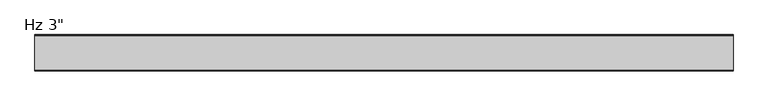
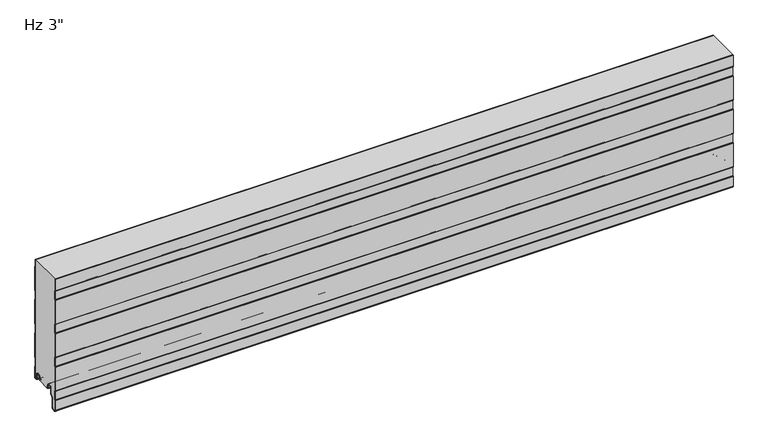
"""IFC4 building model written with IfcOpenShell, lengths in millimetres: plate geometry."""

from ifc_helpers import new_model, si_unit, point, frame, frame_2d, origin, place, context, project, spatial, polyline, circle_curve, trimmed, segment, composite_curve, outline, extrude, source, transform, mapped, element, save
from ifc_brep_helpers import plane_surface, cylinder_surface, revolved_surface, advanced_brep


def plate_0df7702d(model_context):
    return source(origin(), model_context, "Body", "SolidModel", [
        advanced_brep(
        [(-730.0, -17.0015159, 2.0313088), (-730.0, -18.0015191, 1.0313116), (-730.0, -19.0015105, 2.0313088), (-730.0, -19.0015105, 6.0315125), (-730.0, -18.0015159, 6.0315125), (-730.0, -18.0015159, 8.7237223), (-730.0, -14.7015202, 12.023718), (-730.0, -10.301529, 12.023718), (-730.0, -7.0015335, 8.7237225), (-730.0, -7.0015335, -1.6962564), (-730.0, -5.2315393, -3.4662506), (-730.0, -0.9999916, -3.4662506), (-730.0, -0.9999916, 21.034026), (-730.0, -2.2002307, 22.4196686), (-730.0, -2.2002307, 41.7948349), (-730.0, -1.0, 43.1804679), (-730.0, -1.0, 97.2338833), (-730.0, -2.2002307, 98.6195162), (-730.0, -2.2002307, 117.9946825), (-730.0, -1.0, 119.3803155), (-730.0, -1.0, 173.4337309), (-730.0, -2.2002307, 174.8193638), (-730.0, -2.2002307, 194.1945301), (-730.0, -1.0, 195.5801631), (-730.0, -1.0, 249.6335785), (-730.0, -2.2002307, 251.0192114), (-730.0, -2.2002307, 266.4), (-730.0, -1.2002307, 266.4), (-730.0, -1.2002307, 251.3920919), (-730.0, -0.3417885, 250.4010442), (-730.0, 0.0, 249.4844273), (-730.0, 0.0, 195.7293142), (-730.0, -0.3417885, 194.8126973), (-730.0, -1.2002307, 193.8216497), (-730.0, -1.2002307, 175.1922443), (-730.0, -0.3417885, 174.2011966), (-730.0, 0.0, 173.2845797), (-730.0, 0.0, 119.5294666), (-730.0, -0.3417885, 118.6128497), (-730.0, -1.2002307, 117.6218021), (-730.0, -1.2002307, 98.9923967), (-730.0, -0.3417885, 98.001349), (-730.0, 0.0, 97.0847321), (-730.0, 0.0, 43.329619), (-730.0, -0.3417885, 42.4130021), (-730.0, -1.2002307, 41.4219545), (-730.0, -1.2002307, 22.7925491), (-730.0, -0.3417885, 21.8015014), (-730.0, 0.0, 20.8847931), (-730.0, 8.4e-06, -3.0662545), (-730.0, -1.3999878, -4.4662506), (-730.0, -5.2315393, -4.4662506), (-730.0, -8.0015335, -1.6962564), (-730.0, -8.0015335, 8.7237225), (-730.0, -10.301529, 11.023718), (-730.0, -14.7015202, 11.023718), (-730.0, -17.0015159, 8.7237223), (730.0, -17.0015159, 2.0313088), (730.0, -17.0015159, 8.7237223), (730.0, -14.7015202, 11.023718), (730.0, -10.301529, 11.023718), (730.0, -8.0015335, 8.7237225), (730.0, -8.0015335, -1.6962564), (730.0, -5.2315393, -4.4662506), (730.0, -1.3999878, -4.4662506), (730.0, 8.4e-06, -3.0662545), (730.0, 8.4e-06, 20.8848845), (730.0, -0.3417885, 21.8015014), (730.0, -1.2002307, 22.7925491), (730.0, -1.2002307, 41.4219545), (730.0, -0.3417885, 42.4130021), (730.0, 0.0, 43.329619), (730.0, 0.0, 97.0847321), (730.0, -0.3417885, 98.001349), (730.0, -1.2002307, 98.9923967), (730.0, -1.2002307, 117.6218021), (730.0, -0.3417885, 118.6128497), (730.0, 0.0, 119.5294666), (730.0, 0.0, 173.2845797), (730.0, -0.3417885, 174.2011966), (730.0, -1.2002307, 175.1922443), (730.0, -1.2002307, 193.8216497), (730.0, -0.3417885, 194.8126973), (730.0, 0.0, 195.7293142), (730.0, 0.0, 249.4844273), (730.0, -0.3417885, 250.4010442), (730.0, -1.2002307, 251.3920919), (730.0, -1.2002307, 266.4), (730.0, -2.2002307, 266.4), (730.0, -2.2002307, 251.0192114), (730.0, -1.0, 249.6335785), (730.0, -1.0, 195.5801631), (730.0, -2.2002307, 194.1945301), (730.0, -2.2002307, 174.8193638), (730.0, -1.0, 173.4337309), (730.0, -1.0, 119.3803155), (730.0, -2.2002307, 117.9946825), (730.0, -2.2002307, 98.6195162), (730.0, -1.0, 97.2338833), (730.0, -1.0, 43.1804679), (730.0, -2.2002307, 41.7948349), (730.0, -2.2002307, 22.4196686), (730.0, -0.9999916, 21.034026), (730.0, -0.9999916, -3.4662506), (730.0, -5.2315393, -3.4662506), (730.0, -7.0015335, -1.6962564), (730.0, -7.0015335, 8.7237225), (730.0, -10.301529, 12.023718), (730.0, -14.7015202, 12.023718), (730.0, -18.0015159, 8.7237223), (730.0, -18.0015159, 6.0315125), (730.0, -19.0015105, 6.0315125), (730.0, -19.0015105, 2.0313088), (730.0, -18.0015192, 1.0313116)],
        [
            (0, 1, circle_curve(frame((-730.0, -18.0015132, 2.0313088), z_axis=(-1.0, 0.0, 0.0), x_axis=(0.0, 0.0, 1.0)), 0.9999973)),
            (1, 2, circle_curve(frame((-730.0, -18.0015133, 2.0313088), z_axis=(-1.0, 0.0, 0.0), x_axis=(0.0, 0.0, 1.0)), 0.9999972)),
            (2, 3),
            (3, 4),
            (4, 5),
            (5, 6, circle_curve(frame((-730.0, -14.7015202, 8.7237223), z_axis=(-1.0, 0.0, 0.0), x_axis=(0.0, 0.0, 1.0)), 3.2999957)),
            (6, 7),
            (7, 8, circle_curve(frame((-730.0, -10.301529, 8.7237225), z_axis=(-1.0, 0.0, 0.0), x_axis=(0.0, 0.0, 1.0)), 3.2999955)),
            (8, 9),
            (9, 10, circle_curve(frame((-730.0, -5.2315393, -1.6962564), z_axis=(1.0, 0.0, 0.0), x_axis=(0.0, 0.0, 1.0)), 1.7699942)),
            (10, 11),
            (11, 12),
            (12, 13),
            (13, 14),
            (14, 15),
            (15, 16),
            (16, 17),
            (17, 18),
            (18, 19),
            (19, 20),
            (20, 21),
            (21, 22),
            (22, 23),
            (23, 24),
            (24, 25),
            (25, 26),
            (26, 27),
            (27, 28),
            (28, 29),
            (29, 30, circle_curve(frame((-730.0, -1.3999972, 249.4844273), z_axis=(-1.0, 0.0, 0.0), x_axis=(0.0, 0.0, 1.0)), 1.3999972)),
            (30, 31),
            (31, 32, circle_curve(frame((-730.0, -1.3999972, 195.7293142), z_axis=(-1.0, 0.0, 0.0), x_axis=(0.0, 0.0, 1.0)), 1.3999972)),
            (32, 33),
            (33, 34),
            (34, 35),
            (35, 36, circle_curve(frame((-730.0, -1.3999972, 173.2845797), z_axis=(-1.0, 0.0, 0.0), x_axis=(0.0, 0.0, 1.0)), 1.3999972)),
            (36, 37),
            (37, 38, circle_curve(frame((-730.0, -1.3999972, 119.5294666), z_axis=(-1.0, 0.0, 0.0), x_axis=(0.0, 0.0, 1.0)), 1.3999972)),
            (38, 39),
            (39, 40),
            (40, 41),
            (41, 42, circle_curve(frame((-730.0, -1.3999972, 97.0847321), z_axis=(-1.0, 0.0, 0.0), x_axis=(0.0, 0.0, 1.0)), 1.3999972)),
            (42, 43),
            (43, 44, circle_curve(frame((-730.0, -1.3999972, 43.329619), z_axis=(-1.0, 0.0, 0.0), x_axis=(0.0, 0.0, 1.0)), 1.3999972)),
            (44, 45),
            (45, 46),
            (46, 47),
            (47, 48, circle_curve(frame((-730.0, -1.3999972, 20.8848845), z_axis=(-1.0, 0.0, 0.0), x_axis=(0.0, 0.0, 1.0)), 1.3999972)),
            (48, 49),
            (49, 50, circle_curve(frame((-730.0, -1.3999878, -3.0662545), z_axis=(-1.0, 0.0, 0.0), x_axis=(0.0, 0.0, 1.0)), 1.3999962)),
            (50, 51),
            (51, 52, circle_curve(frame((-730.0, -5.2315393, -1.6962564), z_axis=(-1.0, 0.0, 0.0), x_axis=(0.0, 0.0, 1.0)), 2.7699942)),
            (52, 53),
            (53, 54, circle_curve(frame((-730.0, -10.301529, 8.7237225), z_axis=(1.0, 0.0, 0.0), x_axis=(0.0, 0.0, 1.0)), 2.2999955)),
            (54, 55),
            (55, 56, circle_curve(frame((-730.0, -14.7015202, 8.7237223), z_axis=(1.0, 0.0, 0.0), x_axis=(0.0, 0.0, 1.0)), 2.2999957)),
            (56, 0),
            (57, 58),
            (58, 59, circle_curve(frame((730.0, -14.7015202, 8.7237223), z_axis=(-1.0, 0.0, 0.0), x_axis=(0.0, 0.0, 1.0)), 2.2999957)),
            (59, 60),
            (60, 61, circle_curve(frame((730.0, -10.301529, 8.7237225), z_axis=(-1.0, 0.0, 0.0), x_axis=(0.0, 0.0, 1.0)), 2.2999955)),
            (61, 62),
            (62, 63, circle_curve(frame((730.0, -5.2315393, -1.6962564), z_axis=(1.0, 0.0, 0.0), x_axis=(0.0, 0.0, 1.0)), 2.7699942)),
            (63, 64),
            (64, 65, circle_curve(frame((730.0, -1.3999878, -3.0662545), z_axis=(1.0, 0.0, 0.0), x_axis=(0.0, 0.0, 1.0)), 1.3999962)),
            (65, 66),
            (66, 67, circle_curve(frame((730.0, -1.3999972, 20.8848845), z_axis=(1.0, 0.0, 0.0), x_axis=(0.0, 0.0, 1.0)), 1.3999972)),
            (67, 68),
            (68, 69),
            (69, 70),
            (70, 71, circle_curve(frame((730.0, -1.3999972, 43.329619), z_axis=(1.0, 0.0, 0.0), x_axis=(0.0, 0.0, 1.0)), 1.3999972)),
            (71, 72),
            (72, 73, circle_curve(frame((730.0, -1.3999972, 97.0847321), z_axis=(1.0, 0.0, 0.0), x_axis=(0.0, 0.0, 1.0)), 1.3999972)),
            (73, 74),
            (74, 75),
            (75, 76),
            (76, 77, circle_curve(frame((730.0, -1.3999972, 119.5294666), z_axis=(1.0, 0.0, 0.0), x_axis=(0.0, 0.0, 1.0)), 1.3999972)),
            (77, 78),
            (78, 79, circle_curve(frame((730.0, -1.3999972, 173.2845797), z_axis=(1.0, 0.0, 0.0), x_axis=(0.0, 0.0, 1.0)), 1.3999972)),
            (79, 80),
            (80, 81),
            (81, 82),
            (82, 83, circle_curve(frame((730.0, -1.3999972, 195.7293142), z_axis=(1.0, 0.0, 0.0), x_axis=(0.0, 0.0, 1.0)), 1.3999972)),
            (83, 84),
            (84, 85, circle_curve(frame((730.0, -1.3999972, 249.4844273), z_axis=(1.0, 0.0, 0.0), x_axis=(0.0, 0.0, 1.0)), 1.3999972)),
            (85, 86),
            (86, 87),
            (87, 88),
            (88, 89),
            (89, 90),
            (90, 91),
            (91, 92),
            (92, 93),
            (93, 94),
            (94, 95),
            (95, 96),
            (96, 97),
            (97, 98),
            (98, 99),
            (99, 100),
            (100, 101),
            (101, 102),
            (102, 103),
            (103, 104),
            (104, 105, circle_curve(frame((730.0, -5.2315393, -1.6962564), z_axis=(-1.0, 0.0, 0.0), x_axis=(0.0, 0.0, 1.0)), 1.7699942)),
            (105, 106),
            (106, 107, circle_curve(frame((730.0, -10.301529, 8.7237225), z_axis=(1.0, 0.0, 0.0), x_axis=(0.0, 0.0, 1.0)), 3.2999955)),
            (107, 108),
            (108, 109, circle_curve(frame((730.0, -14.7015202, 8.7237223), z_axis=(1.0, 0.0, 0.0), x_axis=(0.0, 0.0, 1.0)), 3.2999957)),
            (109, 110),
            (110, 111),
            (111, 112),
            (112, 113, circle_curve(frame((730.0, -18.0015133, 2.0313088), z_axis=(1.0, 0.0, 0.0), x_axis=(0.0, 0.0, 1.0)), 0.9999972)),
            (113, 57, circle_curve(frame((730.0, -18.0015132, 2.0313088), z_axis=(1.0, 0.0, 0.0), x_axis=(0.0, 0.0, 1.0)), 0.9999973)),
            (26, 88),
            (87, 27),
            (56, 58),
            (57, 0),
            (55, 59),
            (54, 60),
            (53, 61),
            (52, 62),
            (51, 63),
            (50, 64),
            (49, 65),
            (48, 66),
            (47, 67),
            (46, 68),
            (45, 69),
            (44, 70),
            (43, 71),
            (42, 72),
            (41, 73),
            (40, 74),
            (39, 75),
            (38, 76),
            (37, 77),
            (36, 78),
            (19, 95),
            (94, 20),
            (18, 96),
            (17, 97),
            (16, 98),
            (15, 99),
            (14, 100),
            (13, 101),
            (12, 102),
            (11, 103),
            (10, 104),
            (9, 105),
            (8, 106),
            (7, 107),
            (6, 108),
            (5, 109),
            (4, 110),
            (3, 111),
            (2, 112),
            (1, 113),
            (35, 79),
            (34, 80),
            (33, 81),
            (32, 82),
            (31, 83),
            (30, 84),
            (29, 85),
            (28, 86),
            (25, 89),
            (24, 90),
            (23, 91),
            (22, 92),
            (21, 93),
        ],
        [
            plane_surface(frame((-730.0, 0.0, 533.4), z_axis=(-1.0, 0.0, 0.0), x_axis=(0.0, 1.0, 0.0))),
            plane_surface(frame((730.0, 0.0, 533.4), z_axis=(1.0, 0.0, 0.0), x_axis=(0.0, 1.0, 0.0))),
            plane_surface(frame((730.0, 10.0, 266.4), z_axis=(0.0, 0.0, 1.0), x_axis=(-1.0, 0.0, 0.0))),
            plane_surface(frame((-730.0, -17.0015159, 2.0313088), z_axis=(0.0, 1.0, 0.0), x_axis=(1.0, 0.0, 0.0))),
            revolved_surface(polyline([(730.0, -14.7015202, 11.023718), (-730.0, -14.7015202, 11.023718)]), (-730.0, -14.7015202, 8.7237223), (1.0, 0.0, 0.0)),
            plane_surface(frame((-730.0, -14.7015202, 11.023718), z_axis=(0.0, 0.0, -1.0), x_axis=(1.0, 0.0, 0.0))),
            revolved_surface(polyline([(730.0, -10.301529, 11.023717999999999), (-730.0, -10.301529, 11.023717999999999)]), (-730.0, -10.301529, 8.7237225), (1.0, 0.0, 0.0)),
            plane_surface(frame((-730.0, -8.0015335, 8.7237225), z_axis=(0.0, -1.0, 0.0), x_axis=(1.0, 0.0, 0.0))),
            cylinder_surface(frame((-730.0, -5.2315393, -1.6962564), z_axis=(-1.0, 0.0, 0.0), x_axis=(0.0, 0.0, 1.0)), 2.7699942),
            plane_surface(frame((-730.0, -5.2315393, -4.4662506), z_axis=(0.0, 0.0, -1.0), x_axis=(1.0, 0.0, 0.0))),
            cylinder_surface(frame((-730.0, -1.3999878, -3.0662545), z_axis=(-1.0, 0.0, 0.0), x_axis=(0.0, 0.0, 1.0)), 1.3999962),
            plane_surface(frame((-730.0, 8.4e-06, -3.0662545), z_axis=(0.0, 1.0, 0.0), x_axis=(1.0, 0.0, 0.0))),
            cylinder_surface(frame((-730.0, -1.3999972, 20.8848845), z_axis=(-1.0, 0.0, 0.0), x_axis=(0.0, 0.0, 1.0)), 1.3999972),
            plane_surface(frame((-730.0, -0.3417885, 21.8015014), z_axis=(0.0, 0.755864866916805, 0.6547276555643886), x_axis=(1.0, 0.0, 0.0))),
            plane_surface(frame((-730.0, -1.2002307, 32.1072518), z_axis=(0.0, 1.0, 0.0), x_axis=(1.0, 0.0, 0.0))),
            plane_surface(frame((-730.0, -1.2002307, 41.4219545), z_axis=(0.0, 0.755864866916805, -0.6547276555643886), x_axis=(1.0, 0.0, 0.0))),
            cylinder_surface(frame((-730.0, -1.3999972, 43.329619), z_axis=(-1.0, 0.0, 0.0), x_axis=(0.0, 0.0, 1.0)), 1.3999972),
            plane_surface(frame((-730.0, 0.0, 43.329619), z_axis=(0.0, 1.0, 0.0), x_axis=(1.0, 0.0, 0.0))),
            cylinder_surface(frame((-730.0, -1.3999972, 97.0847321), z_axis=(-1.0, 0.0, 0.0), x_axis=(0.0, 0.0, 1.0)), 1.3999972),
            plane_surface(frame((-730.0, -0.3417885, 98.001349), z_axis=(0.0, 0.755864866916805, 0.6547276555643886), x_axis=(1.0, 0.0, 0.0))),
            plane_surface(frame((-730.0, -1.2002307, 108.3070994), z_axis=(0.0, 1.0, 0.0), x_axis=(1.0, 0.0, 0.0))),
            plane_surface(frame((-730.0, -1.2002307, 117.6218021), z_axis=(0.0, 0.755864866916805, -0.6547276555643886), x_axis=(1.0, 0.0, 0.0))),
            cylinder_surface(frame((-730.0, -1.3999972, 119.5294666), z_axis=(-1.0, 0.0, 0.0), x_axis=(0.0, 0.0, 1.0)), 1.3999972),
            plane_surface(frame((-730.0, 0.0, 119.5294666), z_axis=(0.0, 1.0, 0.0), x_axis=(1.0, 0.0, 0.0))),
            plane_surface(frame((-730.0, -1.0, 173.4337309), z_axis=(0.0, -1.0, 0.0), x_axis=(1.0, 0.0, 0.0))),
            plane_surface(frame((-730.0, -1.0, 119.3803155), z_axis=(0.0, -0.755864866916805, 0.6547276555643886), x_axis=(1.0, 0.0, 0.0))),
            plane_surface(frame((-730.0, -2.2002307, 117.9946825), z_axis=(0.0, -1.0, 0.0), x_axis=(1.0, 0.0, 0.0))),
            plane_surface(frame((-730.0, -2.2002307, 98.6195162), z_axis=(0.0, -0.755864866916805, -0.6547276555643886), x_axis=(1.0, 0.0, 0.0))),
            plane_surface(frame((-730.0, -1.0, 97.2338833), z_axis=(0.0, -1.0, 0.0), x_axis=(1.0, 0.0, 0.0))),
            plane_surface(frame((-730.0, -1.0, 43.1804679), z_axis=(0.0, -0.755864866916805, 0.6547276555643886), x_axis=(1.0, 0.0, 0.0))),
            plane_surface(frame((-730.0, -2.2002307, 41.7948349), z_axis=(0.0, -1.0, 0.0), x_axis=(1.0, 0.0, 0.0))),
            plane_surface(frame((-730.0, -2.2002307, 22.4196686), z_axis=(0.0, -0.755864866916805, -0.6547276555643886), x_axis=(1.0, 0.0, 0.0))),
            plane_surface(frame((-730.0, -0.9999916, 21.034026), z_axis=(0.0, -1.0, 0.0), x_axis=(1.0, 0.0, 0.0))),
            plane_surface(frame((-730.0, -0.9999916, -3.4662506), z_axis=(0.0, 0.0, 1.0), x_axis=(1.0, 0.0, 0.0))),
            revolved_surface(polyline([(730.0, -5.2315393, 0.07373779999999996), (-730.0, -5.2315393, 0.07373779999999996)]), (-730.0, -5.2315393, -1.6962564), (1.0, 0.0, 0.0)),
            plane_surface(frame((-730.0, -7.0015335, -1.6962564), z_axis=(0.0, 1.0, 0.0), x_axis=(1.0, 0.0, 0.0))),
            cylinder_surface(frame((-730.0, -10.301529, 8.7237225), z_axis=(-1.0, 0.0, 0.0), x_axis=(0.0, 0.0, 1.0)), 3.2999955),
            plane_surface(frame((-730.0, -10.301529, 12.023718), z_axis=(0.0, 0.0, 1.0), x_axis=(1.0, 0.0, 0.0))),
            cylinder_surface(frame((-730.0, -14.7015202, 8.7237223), z_axis=(-1.0, 0.0, 0.0), x_axis=(0.0, 0.0, 1.0)), 3.2999957),
            plane_surface(frame((-730.0, -18.0015159, 8.7237223), z_axis=(0.0, -1.0, 0.0), x_axis=(1.0, 0.0, 0.0))),
            plane_surface(frame((-730.0, -18.0015159, 6.0315125), z_axis=(0.0, 0.0, 1.0), x_axis=(1.0, 0.0, 0.0))),
            plane_surface(frame((-730.0, -19.0015105, 6.0315125), z_axis=(0.0, -1.0, 0.0), x_axis=(1.0, 0.0, 0.0))),
            cylinder_surface(frame((-730.0, -18.0015133, 2.0313088), z_axis=(-1.0, 0.0, 0.0), x_axis=(0.0, 0.0, 1.0)), 0.9999972),
            cylinder_surface(frame((-730.0, -18.0015132, 2.0313088), z_axis=(-1.0, 0.0, 0.0), x_axis=(0.0, 0.0, 1.0)), 0.9999973),
            cylinder_surface(frame((-730.0, -1.3999972, 173.2845797), z_axis=(-1.0, 0.0, 0.0), x_axis=(0.0, 0.0, 1.0)), 1.3999972),
            plane_surface(frame((-730.0, -0.3417885, 174.2011966), z_axis=(0.0, 0.755864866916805, 0.6547276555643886), x_axis=(1.0, 0.0, 0.0))),
            plane_surface(frame((-730.0, -1.2002307, 184.506947), z_axis=(0.0, 1.0, 0.0), x_axis=(1.0, 0.0, 0.0))),
            plane_surface(frame((-730.0, -1.2002307, 193.8216497), z_axis=(0.0, 0.755864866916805, -0.6547276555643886), x_axis=(1.0, 0.0, 0.0))),
            cylinder_surface(frame((-730.0, -1.3999972, 195.7293142), z_axis=(-1.0, 0.0, 0.0), x_axis=(0.0, 0.0, 1.0)), 1.3999972),
            plane_surface(frame((-730.0, 0.0, 195.7293142), z_axis=(0.0, 1.0, 0.0), x_axis=(1.0, 0.0, 0.0))),
            cylinder_surface(frame((-730.0, -1.3999972, 249.4844273), z_axis=(-1.0, 0.0, 0.0), x_axis=(0.0, 0.0, 1.0)), 1.3999972),
            plane_surface(frame((-730.0, -0.3417885, 250.4010442), z_axis=(0.0, 0.755864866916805, 0.6547276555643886), x_axis=(1.0, 0.0, 0.0))),
            plane_surface(frame((-730.0, -1.2002307, 260.7067946), z_axis=(0.0, 1.0, 0.0), x_axis=(1.0, 0.0, 0.0))),
            plane_surface(frame((-730.0, -2.2002307, 270.3943777), z_axis=(0.0, -1.0, 0.0), x_axis=(1.0, 0.0, 0.0))),
            plane_surface(frame((-730.0, -2.2002307, 251.0192114), z_axis=(0.0, -0.755864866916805, -0.6547276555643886), x_axis=(1.0, 0.0, 0.0))),
            plane_surface(frame((-730.0, -1.0, 249.6335785), z_axis=(0.0, -1.0, 0.0), x_axis=(1.0, 0.0, 0.0))),
            plane_surface(frame((-730.0, -1.0, 195.5801631), z_axis=(0.0, -0.755864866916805, 0.6547276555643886), x_axis=(1.0, 0.0, 0.0))),
            plane_surface(frame((-730.0, -2.2002307, 194.1945301), z_axis=(0.0, -1.0, 0.0), x_axis=(1.0, 0.0, 0.0))),
            plane_surface(frame((-730.0, -2.2002307, 174.8193638), z_axis=(0.0, -0.755864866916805, -0.6547276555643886), x_axis=(1.0, 0.0, 0.0))),
        ],
        [
            (0, [[1, 2, 3, 4, 5, 6, 7, 8, 9, 10, 11, 12, 13, 14, 15, 16, 17, 18, 19, 20, 21, 22, 23, 24, 25, 26, 27, 28, 29, 30, 31, 32, 33, 34, 35, 36, 37, 38, 39, 40, 41, 42, 43, 44, 45, 46, 47, 48, 49, 50, 51, 52, 53, 54, 55, 56, 57]]),
            (1, [[58, 59, 60, 61, 62, 63, 64, 65, 66, 67, 68, 69, 70, 71, 72, 73, 74, 75, 76, 77, 78, 79, 80, 81, 82, 83, 84, 85, 86, 87, 88, 89, 90, 91, 92, 93, 94, 95, 96, 97, 98, 99, 100, 101, 102, 103, 104, 105, 106, 107, 108, 109, 110, 111, 112, 113, 114]]),
            (2, [[115, -88, 116, -27]]),
            (3, [[117, -58, 118, -57]]),
            (4, [[119, -59, -117, -56]]),
            (5, [[120, -60, -119, -55]]),
            (6, [[121, -61, -120, -54]]),
            (7, [[122, -62, -121, -53]]),
            (8, [[123, -63, -122, -52]]),
            (9, [[124, -64, -123, -51]]),
            (10, [[125, -65, -124, -50]]),
            (11, [[126, -66, -125, -49]]),
            (12, [[127, -67, -126, -48]]),
            (13, [[128, -68, -127, -47]]),
            (14, [[129, -69, -128, -46]]),
            (15, [[130, -70, -129, -45]]),
            (16, [[131, -71, -130, -44]]),
            (17, [[132, -72, -131, -43]]),
            (18, [[133, -73, -132, -42]]),
            (19, [[134, -74, -133, -41]]),
            (20, [[135, -75, -134, -40]]),
            (21, [[136, -76, -135, -39]]),
            (22, [[137, -77, -136, -38]]),
            (23, [[138, -78, -137, -37]]),
            (24, [[139, -95, 140, -20]]),
            (25, [[141, -96, -139, -19]]),
            (26, [[142, -97, -141, -18]]),
            (27, [[143, -98, -142, -17]]),
            (28, [[144, -99, -143, -16]]),
            (29, [[145, -100, -144, -15]]),
            (30, [[146, -101, -145, -14]]),
            (31, [[147, -102, -146, -13]]),
            (32, [[148, -103, -147, -12]]),
            (33, [[149, -104, -148, -11]]),
            (34, [[150, -105, -149, -10]]),
            (35, [[151, -106, -150, -9]]),
            (36, [[152, -107, -151, -8]]),
            (37, [[153, -108, -152, -7]]),
            (38, [[154, -109, -153, -6]]),
            (39, [[155, -110, -154, -5]]),
            (40, [[156, -111, -155, -4]]),
            (41, [[157, -112, -156, -3]]),
            (42, [[158, -113, -157, -2]]),
            (43, [[-118, -114, -158, -1]]),
            (44, [[159, -79, -138, -36]]),
            (45, [[160, -80, -159, -35]]),
            (46, [[161, -81, -160, -34]]),
            (47, [[162, -82, -161, -33]]),
            (48, [[163, -83, -162, -32]]),
            (49, [[164, -84, -163, -31]]),
            (50, [[165, -85, -164, -30]]),
            (51, [[166, -86, -165, -29]]),
            (52, [[-28, -116, -87, -166]]),
            (53, [[-89, -115, -26, 167]]),
            (54, [[168, -90, -167, -25]]),
            (55, [[169, -91, -168, -24]]),
            (56, [[170, -92, -169, -23]]),
            (57, [[171, -93, -170, -22]]),
            (58, [[-140, -94, -171, -21]]),
        ],
    ),
        extrude(outline(composite_curve([segment(trimmed(circle_curve(frame_2d((-74.8007733, -10.6415934)), 1.3998661), [point((-76.2006394, -10.6415934))], [point((-75.7333971, -9.5976403))], False, "CARTESIAN"), True, "CONTINUOUS"), segment(polyline([(-75.7333971, -9.5976403), (-75.0006709, -8.8649141), (-75.0006709, 10.0260713), (-75.7336365, 10.7590369)]), True, "CONTINUOUS"), segment(trimmed(circle_curve(frame_2d((-74.8009253, 11.8030877)), 1.3999972), [point((-75.7336365, 10.7590369))], [point((-76.2009016, 11.810741))], False, "CARTESIAN"), True, "CONTINUOUS"), segment(polyline([(-76.2009016, 11.810741), (-76.2009016, 65.5582542)]), True, "CONTINUOUS"), segment(trimmed(circle_curve(frame_2d((-74.8009044, 65.5582542)), 1.3999972), [point((-76.2009016, 65.5582542))], [point((-75.7336156, 66.602305))], False, "CARTESIAN"), True, "CONTINUOUS"), segment(polyline([(-75.7336156, 66.602305), (-75.0006709, 67.3352497), (-75.0006709, 86.2259189), (-75.7336365, 86.9588845)]), True, "CONTINUOUS"), segment(trimmed(circle_curve(frame_2d((-74.8009253, 88.0029353)), 1.3999972), [point((-75.7336365, 86.9588845))], [point((-76.2009016, 88.0105886))], False, "CARTESIAN"), True, "CONTINUOUS"), segment(polyline([(-76.2009016, 88.0105886), (-76.2009016, 141.7581018)]), True, "CONTINUOUS"), segment(trimmed(circle_curve(frame_2d((-74.8009044, 141.7581018)), 1.3999972), [point((-76.2009016, 141.7581018))], [point((-75.7336156, 142.8021526))], False, "CARTESIAN"), True, "CONTINUOUS"), segment(polyline([(-75.7336156, 142.8021526), (-75.0006709, 143.5350973), (-75.0006709, 162.4257665), (-75.7336365, 163.1587321)]), True, "CONTINUOUS"), segment(trimmed(circle_curve(frame_2d((-74.8009253, 164.2027829)), 1.3999972), [point((-75.7336365, 163.1587321))], [point((-76.2009016, 164.2104362))], False, "CARTESIAN"), True, "CONTINUOUS"), segment(polyline([(-76.2009016, 164.2104362), (-76.2009016, 217.9579494)]), True, "CONTINUOUS"), segment(trimmed(circle_curve(frame_2d((-74.8009044, 217.9579494)), 1.3999972), [point((-76.2009016, 217.9579494))], [point((-75.7336156, 219.0020002))], False, "CARTESIAN"), True, "CONTINUOUS"), segment(polyline([(-75.7336156, 219.0020002), (-75.0006709, 219.7349449), (-75.0006709, 238.6256141), (-75.7336365, 239.3585797)]), True, "CONTINUOUS"), segment(trimmed(circle_curve(frame_2d((-74.8009253, 240.4026305)), 1.3999972), [point((-75.7336365, 239.3585797))], [point((-76.2009016, 240.4102838))], False, "CARTESIAN"), True, "CONTINUOUS"), segment(polyline([(-76.2009016, 240.4102838), (-76.2009016, 266.4), (-75.2009016, 266.4), (-75.2009016, 240.2405326), (-74.0006709, 239.0403019), (-74.0006709, 219.3208894), (-75.2009016, 218.1206587), (-75.2009016, 164.0405269), (-74.0006709, 162.8402962), (-74.0006709, 143.1208837), (-75.2009016, 141.920653), (-75.2009016, 87.8405213), (-74.0006709, 86.6402905), (-74.0006709, 66.920878), (-75.2009016, 65.7206473), (-75.2009016, 11.6405156), (-74.0006709, 10.4402849), (-74.0006709, -9.2791277), (-75.2006394, -10.4790962), (-75.2006394, -32.4521176)]), True, "CONTINUOUS"), segment(trimmed(circle_curve(frame_2d((-72.6304001, -32.4521176)), 2.5702393), [point((-75.2006394, -32.4521176))], [point((-72.4063145, -35.0125699))], True, "CARTESIAN"), True, "CONTINUOUS"), segment(polyline([(-72.4063145, -35.0125699), (-67.4244936, -34.5765709)]), True, "CONTINUOUS"), segment(trimmed(circle_curve(frame_2d((-67.9058842, -31.9198392)), 2.6999926), [point((-67.4244936, -34.5765709))], [point((-65.2058916, -31.9198392))], True, "CARTESIAN"), True, "CONTINUOUS"), segment(polyline([(-65.2058916, -31.9198392), (-65.2058916, -9.8247096), (-59.7038205, -4.3226385)]), True, "CONTINUOUS"), segment(trimmed(circle_curve(frame_2d((-60.9058982, -3.1205608)), 1.6999946), [point((-59.7038205, -4.3226385))], [point((-59.2059036, -3.1205608))], True, "CARTESIAN"), True, "CONTINUOUS"), segment(polyline([(-59.2059036, -3.1205608), (-59.2059036, 8.6903283)]), True, "CONTINUOUS"), segment(trimmed(circle_curve(frame_2d((-55.8559083, 8.6903283)), 3.3499953), [point((-59.2059036, 8.6903283))], [point((-55.8559083, 12.0403236))], False, "CARTESIAN"), True, "CONTINUOUS"), segment(polyline([(-55.8559083, 12.0403236), (-51.4559171, 12.0403236)]), True, "CONTINUOUS"), segment(trimmed(circle_curve(frame_2d((-51.4559171, 8.6903283)), 3.3499953), [point((-51.4559171, 12.0403236))], [point((-48.1059218, 8.6903283))], False, "CARTESIAN"), True, "CONTINUOUS"), segment(polyline([(-48.1059218, 8.6903283), (-48.1059218, 5.9912173), (-46.7074429, 5.9912173), (-46.7074429, 2.2328239)]), True, "CONTINUOUS"), segment(trimmed(circle_curve(frame_2d((-47.9074396, 2.2313092)), 1.1999976), [point((-46.7074429, 2.2328239))], [point((-47.8769177, 1.0316999))], False, "CARTESIAN"), True, "CONTINUOUS"), segment(trimmed(circle_curve(frame_2d((-47.9074396, 2.2313092)), 1.1999976), [point((-47.8769177, 1.0316999))], [point((-49.1059218, 2.1710221))], False, "CARTESIAN"), True, "CONTINUOUS"), segment(polyline([(-49.1059218, 2.1710221), (-49.1059218, 8.6903283)]), True, "CONTINUOUS"), segment(trimmed(circle_curve(frame_2d((-51.4559171, 8.6903283)), 2.3499953), [point((-49.1059218, 8.6903283))], [point((-51.4559171, 11.0403236))], True, "CARTESIAN"), True, "CONTINUOUS"), segment(polyline([(-51.4559171, 11.0403236), (-55.8559083, 11.0403236)]), True, "CONTINUOUS"), segment(trimmed(circle_curve(frame_2d((-55.8559083, 8.6903283)), 2.3499953), [point((-55.8559083, 11.0403236))], [point((-58.2059036, 8.6903283))], True, "CARTESIAN"), True, "CONTINUOUS"), segment(polyline([(-58.2059036, 8.6903283), (-58.2059036, -3.1205608)]), True, "CONTINUOUS"), segment(trimmed(circle_curve(frame_2d((-60.9058982, -3.1205608)), 2.6999946), [point((-58.2059036, -3.1205608))], [point((-58.9967137, -5.0297453))], False, "CARTESIAN"), True, "CONTINUOUS"), segment(polyline([(-58.9967137, -5.0297453), (-63.8251312, -9.8581627)]), True, "CONTINUOUS"), segment(trimmed(circle_curve(frame_2d((-62.9058942, -10.7773997)), 1.2999974), [point((-63.8251312, -9.8581627))], [point((-64.2058916, -10.7773997))], True, "CARTESIAN"), True, "CONTINUOUS"), segment(polyline([(-64.2058916, -10.7773997), (-64.2058916, -31.9198392)]), True, "CONTINUOUS"), segment(trimmed(circle_curve(frame_2d((-67.9058842, -31.9198392)), 3.6999926), [point((-64.2058916, -31.9198392))], [point((-67.2950831, -35.5690675))], False, "CARTESIAN"), True, "CONTINUOUS"), segment(polyline([(-67.2950831, -35.5690675), (-72.3191297, -36.008762)]), True, "CONTINUOUS"), segment(trimmed(circle_curve(frame_2d((-72.6304001, -32.4521176)), 3.5702393), [point((-72.3191297, -36.008762))], [point((-76.2006394, -32.4521176))], False, "CARTESIAN"), True, "CONTINUOUS"), segment(polyline([(-76.2006394, -32.4521176), (-76.2006394, -10.6415934)]), True, "CONTINUOUS")], self_intersect=False)), frame((-730.0, 0.0, 0.0), z_axis=(1.0, 0.0, 0.0), x_axis=(0.0, 1.0, 0.0)), (0.0, 0.0, 1.0), 1460.0),
        extrude(outline(composite_curve([segment(trimmed(circle_curve(frame_2d((-47.9013969, 2.2313092)), 1.1999976), [point((-47.870875, 1.0316999))], [point((-46.7014003, 2.2328239))], True, "CARTESIAN"), True, "CONTINUOUS"), segment(polyline([(-46.7014003, 2.2328239), (-46.7014003, 5.9912173), (-48.0998791, 5.9912173), (-48.0998791, 8.6903283)]), True, "CONTINUOUS"), segment(trimmed(circle_curve(frame_2d((-51.4498744, 8.6903283)), 3.3499953), [point((-48.0998791, 8.6903283))], [point((-51.4498744, 12.0403236))], True, "CARTESIAN"), True, "CONTINUOUS"), segment(polyline([(-51.4498744, 12.0403236), (-55.8498656, 12.0403236)]), True, "CONTINUOUS"), segment(trimmed(circle_curve(frame_2d((-55.8498656, 8.6903283)), 3.3499953), [point((-55.8498656, 12.0403236))], [point((-59.1998609, 8.6903283))], True, "CARTESIAN"), True, "CONTINUOUS"), segment(polyline([(-59.1998609, 8.6903283), (-59.1998609, -3.1205608)]), True, "CONTINUOUS"), segment(trimmed(circle_curve(frame_2d((-60.8998555, -3.1205608)), 1.6999946), [point((-59.1998609, -3.1205608))], [point((-59.6977778, -4.3226385))], False, "CARTESIAN"), True, "CONTINUOUS"), segment(polyline([(-59.6977778, -4.3226385), (-65.1998489, -9.8247096), (-65.1998489, -31.9198392)]), True, "CONTINUOUS"), segment(trimmed(circle_curve(frame_2d((-67.8998415, -31.9198392)), 2.6999926), [point((-65.1998489, -31.9198392))], [point((-67.4184509, -34.5765709))], False, "CARTESIAN"), True, "CONTINUOUS"), segment(polyline([(-67.4184509, -34.5765709), (-72.4002718, -35.0125699)]), True, "CONTINUOUS"), segment(trimmed(circle_curve(frame_2d((-72.6243575, -32.4521176)), 2.5702393), [point((-72.4002718, -35.0125699))], [point((-75.1945967, -32.4521176))], False, "CARTESIAN"), True, "CONTINUOUS"), segment(polyline([(-75.1945967, -32.4521176), (-75.1945967, -10.4790962), (-73.9946282, -9.2791277), (-73.9946282, 10.4402849), (-75.1948589, 11.6405156), (-75.1948589, 65.7206473), (-73.9946282, 66.920878), (-73.9946282, 86.6402905), (-75.1948589, 87.8405213), (-75.1948589, 141.920653), (-73.9946282, 143.1208837), (-73.9946282, 162.8402962), (-75.1948589, 164.0405269), (-75.1948589, 218.1206587), (-73.9946282, 219.3208894), (-73.9946282, 239.0403019), (-75.1948589, 240.2405326), (-75.1948589, 266.4), (-2.2002307, 266.4), (-2.2002307, 251.0192115), (-1.0, 249.6335785), (-1.0, 195.5801631), (-2.2002307, 194.1945302), (-2.2002307, 174.8193639), (-1.0, 173.4337309), (-1.0, 119.3803155), (-2.2002307, 117.9946826), (-2.2002307, 98.6195163), (-1.0, 97.2338833), (-1.0, 43.1804679), (-2.2002307, 41.794835), (-2.2002307, 22.4196687), (-0.9999916, 21.034026), (-0.9999916, -3.4662506), (-5.2315389, -3.4662506)]), True, "CONTINUOUS"), segment(trimmed(circle_curve(frame_2d((-5.2315389, -1.6962564)), 1.7699942), [point((-5.2315389, -3.4662506))], [point((-7.0015331, -1.6962564))], False, "CARTESIAN"), True, "CONTINUOUS"), segment(polyline([(-7.0015331, -1.6962564), (-7.0015331, 8.7237222)]), True, "CONTINUOUS"), segment(trimmed(circle_curve(frame_2d((-10.301529, 8.7237222)), 3.2999959), [point((-7.0015331, 8.7237222))], [point((-10.301529, 12.023718))], True, "CARTESIAN"), True, "CONTINUOUS"), segment(polyline([(-10.301529, 12.023718), (-14.7015202, 12.023718)]), True, "CONTINUOUS"), segment(trimmed(circle_curve(frame_2d((-14.7015202, 8.7237223)), 3.2999957), [point((-14.7015202, 12.023718))], [point((-18.0015159, 8.7237223))], True, "CARTESIAN"), True, "CONTINUOUS"), segment(polyline([(-18.0015159, 8.7237223), (-18.0015159, 6.0315125), (-19.0015105, 6.0315125), (-19.0015105, 2.0313089)]), True, "CONTINUOUS"), segment(trimmed(circle_curve(frame_2d((-18.0015133, 2.0313089)), 0.9999972), [point((-19.0015105, 2.0313089))], [point((-18.0015192, 1.0313117))], True, "CARTESIAN"), True, "CONTINUOUS"), segment(polyline([(-18.0015192, 1.0313117), (-19.0328308, 0.0), (-46.8391751, 0.0), (-47.870875, 1.0316999)]), True, "CONTINUOUS")], self_intersect=False)), frame((-730.0, 0.0, 0.0), z_axis=(1.0, 0.0, 0.0), x_axis=(0.0, 1.0, 0.0)), (0.0, 0.0, 1.0), 1460.0),
    ])


if __name__ == "__main__":
    model = new_model("IFC4")
    model_context = context("Model", 3, world=origin())
    ifc_project = project(units=[si_unit("LENGTHUNIT", "METRE", prefix="MILLI")], contexts=[model_context])
    site = spatial("IfcSite", under=ifc_project)
    building = spatial("IfcBuilding", under=site)
    placement = place(None, origin())
    plate_shape = plate_0df7702d(model_context)
    element("IfcPlate", 1, ObjectType="KIP-42-Karrier-KP-R19-CP-Hz-SL3-8in_SL : Hz 3\"", at=placement, inside=building, context=model_context, shape_type="MappedRepresentation", body=[
        mapped(plate_shape, transform((0.0, 0.0, 0.0), x_axis=(1.0, 0.0, 0.0), y_axis=(0.0, 1.0, 0.0), z_axis=(0.0, 0.0, 1.0))),
    ])
    save(model, "model.ifc")
